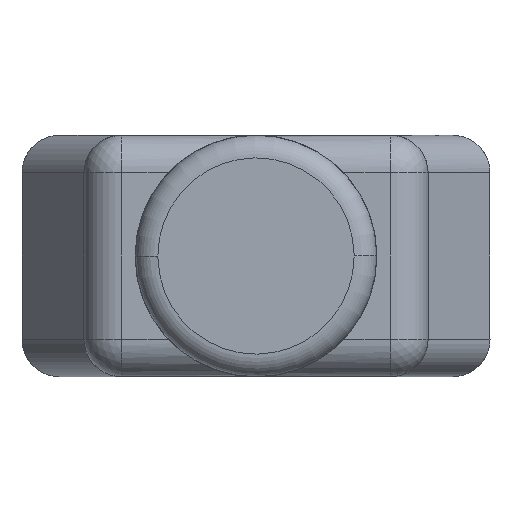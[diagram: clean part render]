
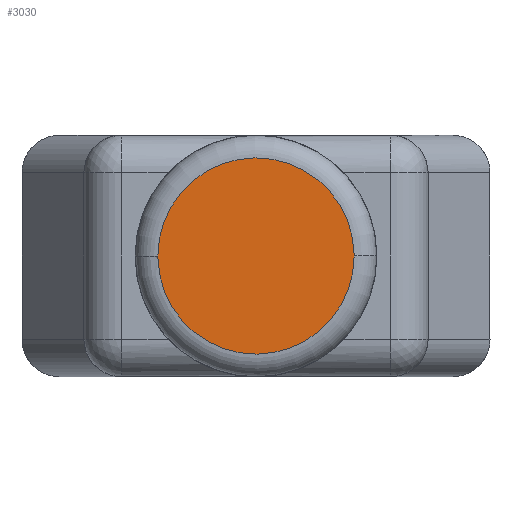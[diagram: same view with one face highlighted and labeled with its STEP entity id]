
A CAD part, front view. The second image highlights one B-rep face of the part: STEP entity #3030.
In plain terms, the highlighted planar face has unit normal (0, -1, 0).
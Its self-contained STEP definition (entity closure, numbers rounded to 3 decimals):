
#521=CARTESIAN_POINT('',(0.,-40.6,0.));
#522=DIRECTION('',(0.,1.,0.));
#523=DIRECTION('',(1.,0.,0.));
#524=AXIS2_PLACEMENT_3D('',#521,#522,#523);
#526=CARTESIAN_POINT('',(0.,-40.6,0.));
#527=DIRECTION('',(0.,1.,0.));
#528=DIRECTION('',(-1.,0.,-0.02));
#529=AXIS2_PLACEMENT_3D('',#526,#527,#528);
#531=CARTESIAN_POINT('',(0.,-40.6,0.));
#532=DIRECTION('',(0.,1.,0.));
#533=DIRECTION('',(-1.,0.,0.));
#534=AXIS2_PLACEMENT_3D('',#531,#532,#533);
#536=CARTESIAN_POINT('',(0.,-40.6,0.));
#537=DIRECTION('',(0.,1.,0.));
#538=DIRECTION('',(1.,0.,0.02));
#539=AXIS2_PLACEMENT_3D('',#536,#537,#538);
#2294=CARTESIAN_POINT('',(-3.25,-40.6,0.));
#2295=VERTEX_POINT('',#2294);
#2296=CARTESIAN_POINT('',(3.25,-40.6,0.));
#2297=VERTEX_POINT('',#2296);
#2324=CARTESIAN_POINT('',(-3.249,-40.6,-0.067));
#2325=VERTEX_POINT('',#2324);
#2326=CARTESIAN_POINT('',(3.249,-40.6,0.067));
#2327=VERTEX_POINT('',#2326);
#3019=CARTESIAN_POINT('',(0.,-40.6,0.));
#3020=DIRECTION('',(0.,1.,0.));
#3021=DIRECTION('',(-1.,0.,0.));
#3022=AXIS2_PLACEMENT_3D('',#3019,#3020,#3021);
#3023=PLANE('',#3022);
#3024=ORIENTED_EDGE('',*,*,#2781,.T.);
#3025=ORIENTED_EDGE('',*,*,#2779,.T.);
#3026=ORIENTED_EDGE('',*,*,#2762,.T.);
#3027=ORIENTED_EDGE('',*,*,#2760,.T.);
#3028=EDGE_LOOP('',(#3024,#3025,#3026,#3027));
#3029=FACE_OUTER_BOUND('',#3028,.F.);
#3030=ADVANCED_FACE('',(#3029),#3023,.F.);
#525=CIRCLE('',#524,3.25);
#530=CIRCLE('',#529,3.25);
#535=CIRCLE('',#534,3.25);
#540=CIRCLE('',#539,3.25);
#2760=EDGE_CURVE('',#2327,#2297,#540,.T.);
#2762=EDGE_CURVE('',#2295,#2327,#535,.T.);
#2779=EDGE_CURVE('',#2325,#2295,#530,.T.);
#2781=EDGE_CURVE('',#2297,#2325,#525,.T.);
